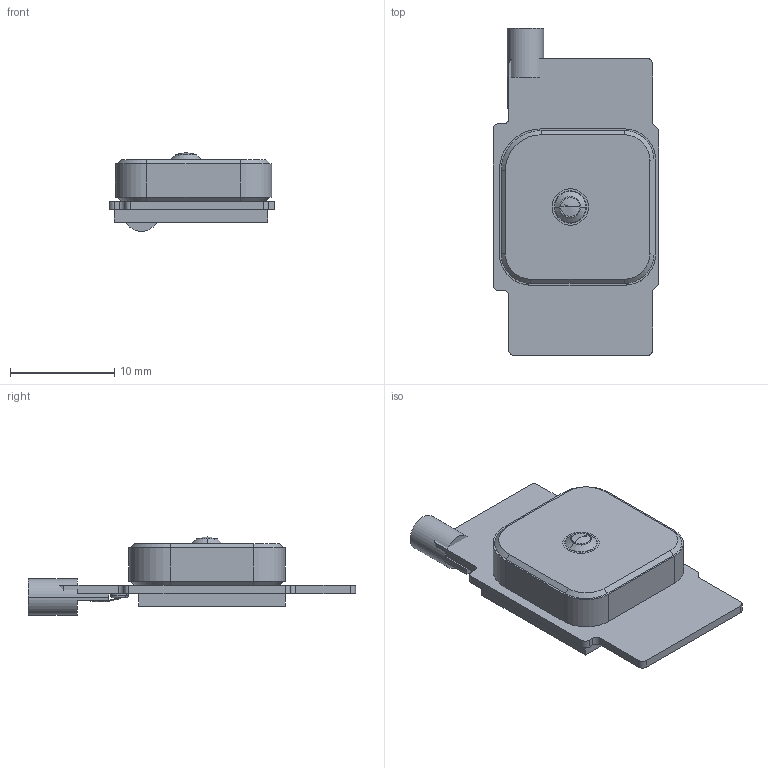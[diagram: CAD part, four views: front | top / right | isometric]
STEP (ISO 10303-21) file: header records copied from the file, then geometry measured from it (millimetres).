
FILE_DESCRIPTION((''),'2;1');
FILE_NAME('GPS-ANTENNA-CIRO-15X15_ASM','2008-06-30T',('GRA'),(''),'PRO/ENGINEER BY PARAMETRIC TECHNOLOGY CORPORATION, 2006170','PRO/ENGINEER BY PARAMETRIC TECHNOLOGY CORPORATION, 2006170','');
FILE_SCHEMA(('CONFIG_CONTROL_DESIGN'));
Length unit declared in the file: millimetre
Products named in the file (9): ANTENNA_PCB_COVER_ANY_PRT; _V_L_ANY_PRT; PATCH_DA15_ANY_PRT; GBSA-100A_ANY_ASM; _GBSA-100A_PRT; GBSA-100A_ASM; GPS-ANT-EXT-CONN_PRT; ANTENNA_PCB_ANY_PRT; GPS-ANTENNA-CIRO-15X15_ASM
Assembly tree (8 placements, depth 4):
  GPS-ANTENNA-CIRO-15X15_ASM
    GBSA-100A_ASM
      GBSA-100A_ANY_ASM
        ANTENNA_PCB_COVER_ANY_PRT
        _V_L_ANY_PRT
        PATCH_DA15_ANY_PRT
      _GBSA-100A_PRT
    GPS-ANT-EXT-CONN_PRT
    ANTENNA_PCB_ANY_PRT
Bounding box: 15.9 x 31.39 x 7.55 mm (x, y, z)
Volume: 1290.6 mm3; surface area: 2181.4 mm2
Topology: 5 solids, 5 shells, 124 faces, 305 edges, 200 vertices
Faces by surface type: plane 74, cylinder 28, cone 16, bspline 4, extrusion 2
Entity records: 4467 total; most frequent: CARTESIAN_POINT 1282, DIRECTION 652, ORIENTED_EDGE 606, EDGE_CURVE 303, AXIS2_PLACEMENT_3D 226, VECTOR 200, VERTEX_POINT 200, LINE 198
